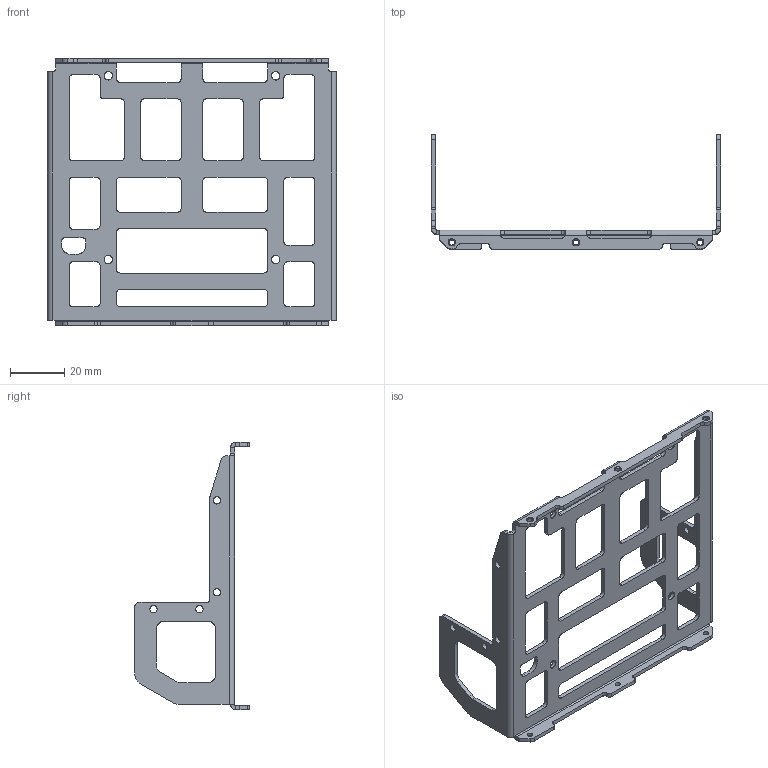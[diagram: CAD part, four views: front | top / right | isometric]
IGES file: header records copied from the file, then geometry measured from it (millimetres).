
Global section: file name: C:\Users\Knabe\Documents\Classes\8 Semester 8\DARwIn\Deliverables\DARwIn OP\DARwIn OP Part Files\OP 3D CAD Files\3D IGS\4_PR13_B01_FRM_PCB_MAIN_T.igs; native system: NX V7.0; preprocessor: SIEMENS PLM Software NX 7.0; date: 20110525.180145; units: millimetre
Bounding box: 107 x 42.5 x 99 mm (x, y, z)
Surface area: 19698.9 mm2 (no closed solid volume)
Topology: 0 solids, 0 shells, 306 faces, 2140 edges, 2140 vertices
Faces by surface type: bspline 306
